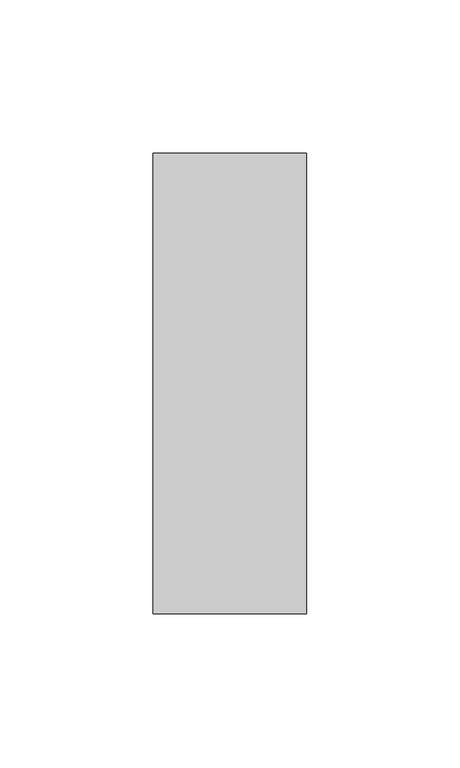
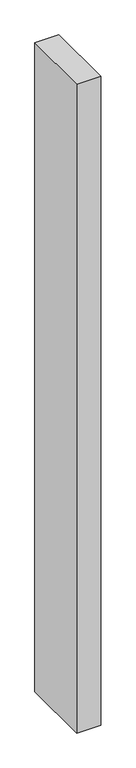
"""IFC4 building model written with IfcOpenShell, lengths in millimetres: member geometry, Прямоугольный импост : 50 x 150 мм."""

from ifc_helpers import new_model, si_unit, frame, origin, place, context, project, spatial, polyline, outline, extrude, source, transform, mapped, element, save


def member_751a5dca(model_context):
    return source(origin(), model_context, "Body", "SweptSolid", [
        extrude(outline(polyline([(0.0, 75.0), (0.0, -75.0), (-50.0, -75.0), (-50.0, 75.0), (0.0, 75.0)])), frame((0.0, 0.0, -1425.0), z_axis=(0.0, 0.0, 1.0), x_axis=(1.0, 0.0, 0.0)), (0.0, 0.0, 1.0), 1425.0),
    ])


if __name__ == "__main__":
    model = new_model("IFC4")
    model_context = context("Model", 3, world=origin())
    ifc_project = project(units=[si_unit("LENGTHUNIT", "METRE", prefix="MILLI")], contexts=[model_context])
    site = spatial("IfcSite", under=ifc_project)
    building = spatial("IfcBuilding", under=site)
    placement = place(None, origin())
    member_shape = member_751a5dca(model_context)
    element("IfcMember", 1, ObjectType="Прямоугольный импост : 50 x 150 мм", at=placement, inside=building, context=model_context, shape_type="MappedRepresentation", body=[
        mapped(member_shape, transform((0.0, 0.0, 0.0), x_axis=(1.0, 0.0, 0.0), y_axis=(0.0, 1.0, 0.0), z_axis=(0.0, 0.0, 1.0))),
    ])
    save(model, "model.ifc")
